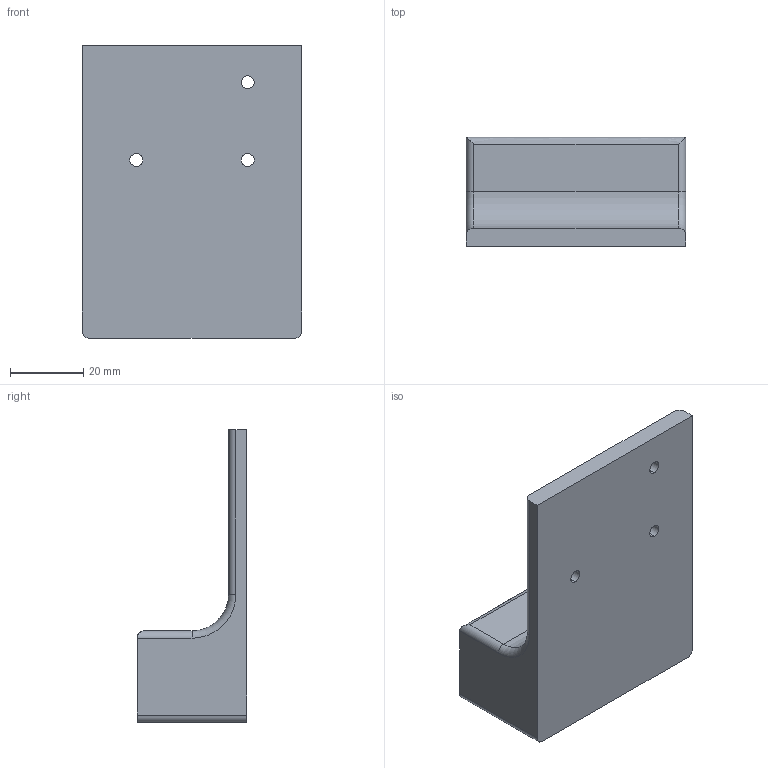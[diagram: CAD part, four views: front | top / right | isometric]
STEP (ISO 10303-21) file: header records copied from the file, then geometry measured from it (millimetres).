
FILE_DESCRIPTION (( 'STEP AP203' ), '1' );
FILE_NAME ('CP45 nozzle rack -right.STEP', '2025-01-22T10:28:20', ( '' ), ( '' ), 'SwSTEP 2.0', 'SolidWorks 2021', '' );
FILE_SCHEMA (( 'CONFIG_CONTROL_DESIGN' ));
Length unit declared in the file: millimetre
Products named in the file (1): CP45 nozzle  rack -right
Bounding box: 60 x 30 x 80 mm (x, y, z)
Volume: 51301.1 mm3; surface area: 18388.2 mm2
Topology: 1 solids, 1 shells, 85 faces, 234 edges, 154 vertices
Faces by surface type: plane 45, cylinder 37, torus 2, bspline 1
Entity records: 2910 total; most frequent: CARTESIAN_POINT 593, DIRECTION 474, ORIENTED_EDGE 468, EDGE_CURVE 234, AXIS2_PLACEMENT_3D 159, VECTOR 156, LINE 156, VERTEX_POINT 154
